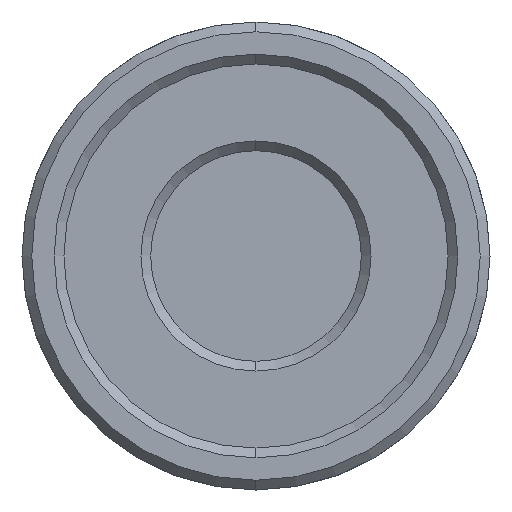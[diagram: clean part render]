
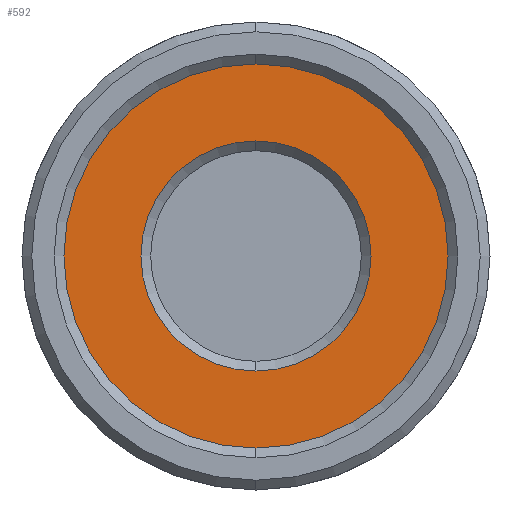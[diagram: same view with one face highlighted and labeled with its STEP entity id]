
A CAD part, left-side view. The second image highlights one B-rep face of the part: STEP entity #592.
In plain terms, the highlighted planar face has unit normal (-1, 0, 0).
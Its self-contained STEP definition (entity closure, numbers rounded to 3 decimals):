
#15 = AXIS2_PLACEMENT_3D ( 'NONE', #189, #191, #193 ) ;
#35 = AXIS2_PLACEMENT_3D ( 'NONE', #144, #145, #147 ) ;
#62 = ORIENTED_EDGE ( 'NONE', *, *, #86, .T. ) ;
#66 = EDGE_CURVE ( 'NONE', #148, #118, #554, .T. ) ;
#86 = EDGE_CURVE ( 'NONE', #118, #148, #569, .T. ) ;
#117 = CIRCLE ( 'NONE', #564, 5.9 ) ;
#118 = VERTEX_POINT ( 'NONE', #224 ) ;
#134 = EDGE_LOOP ( 'NONE', ( #305, #62 ) ) ;
#144 = CARTESIAN_POINT ( 'NONE',  ( 15.9, 0., 0. ) ) ;
#145 = DIRECTION ( 'NONE',  ( -1., 0., 0. ) ) ;
#147 = DIRECTION ( 'NONE',  ( 0., 0., 1. ) ) ;
#148 = VERTEX_POINT ( 'NONE', #260 ) ;
#155 = EDGE_LOOP ( 'NONE', ( #248, #579 ) ) ;
#189 = CARTESIAN_POINT ( 'NONE',  ( 15.9, 0., 0. ) ) ;
#191 = DIRECTION ( 'NONE',  ( -1., 0., 0. ) ) ;
#193 = DIRECTION ( 'NONE',  ( 0., 0., 1. ) ) ;
#224 = CARTESIAN_POINT ( 'NONE',  ( 15.9, 0., -9.85 ) ) ;
#226 = EDGE_CURVE ( 'NONE', #242, #557, #117, .T. ) ;
#242 = VERTEX_POINT ( 'NONE', #325 ) ;
#248 = ORIENTED_EDGE ( 'NONE', *, *, #530, .T. ) ;
#260 = CARTESIAN_POINT ( 'NONE',  ( 15.9, 0., 9.85 ) ) ;
#305 = ORIENTED_EDGE ( 'NONE', *, *, #66, .T. ) ;
#325 = CARTESIAN_POINT ( 'NONE',  ( 15.9, 0., -5.9 ) ) ;
#333 = CARTESIAN_POINT ( 'NONE',  ( 15.9, 0., 0. ) ) ;
#334 = DIRECTION ( 'NONE',  ( 1., 0., 0. ) ) ;
#337 = DIRECTION ( 'NONE',  ( 0., 0., 1. ) ) ;
#372 = FACE_BOUND ( 'NONE', #155, .T. ) ;
#432 = CIRCLE ( 'NONE', #531, 5.9 ) ;
#435 = CARTESIAN_POINT ( 'NONE',  ( 15.9, 0., 0. ) ) ;
#436 = DIRECTION ( 'NONE',  ( 1., 0., 0. ) ) ;
#437 = DIRECTION ( 'NONE',  ( 0., 0., 1. ) ) ;
#438 = FACE_OUTER_BOUND ( 'NONE', #134, .T. ) ;
#441 = CARTESIAN_POINT ( 'NONE',  ( 15.9, 0., 5.9 ) ) ;
#450 = CARTESIAN_POINT ( 'NONE',  ( 15.9, 0., 0. ) ) ;
#455 = PLANE ( 'NONE',  #510 ) ;
#470 = DIRECTION ( 'NONE',  ( -1., 0., 0. ) ) ;
#472 = DIRECTION ( 'NONE',  ( 0., 0., 1. ) ) ;
#510 = AXIS2_PLACEMENT_3D ( 'NONE', #450, #470, #472 ) ;
#530 = EDGE_CURVE ( 'NONE', #557, #242, #432, .T. ) ;
#531 = AXIS2_PLACEMENT_3D ( 'NONE', #435, #436, #437 ) ;
#554 = CIRCLE ( 'NONE', #35, 9.85 ) ;
#557 = VERTEX_POINT ( 'NONE', #441 ) ;
#564 = AXIS2_PLACEMENT_3D ( 'NONE', #333, #334, #337 ) ;
#569 = CIRCLE ( 'NONE', #15, 9.85 ) ;
#579 = ORIENTED_EDGE ( 'NONE', *, *, #226, .T. ) ;
#592 = ADVANCED_FACE ( 'NONE', ( #372, #438 ), #455, .T. ) ;
